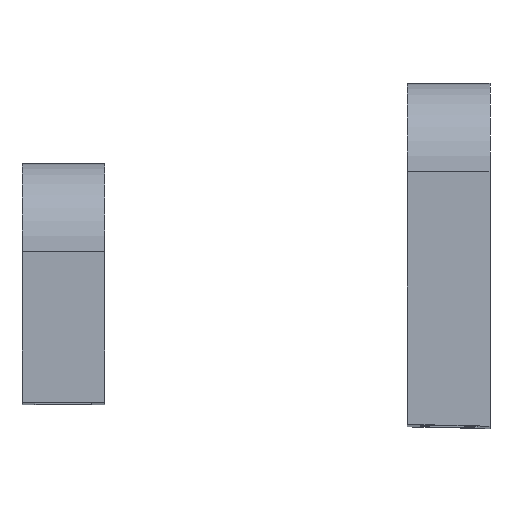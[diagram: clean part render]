
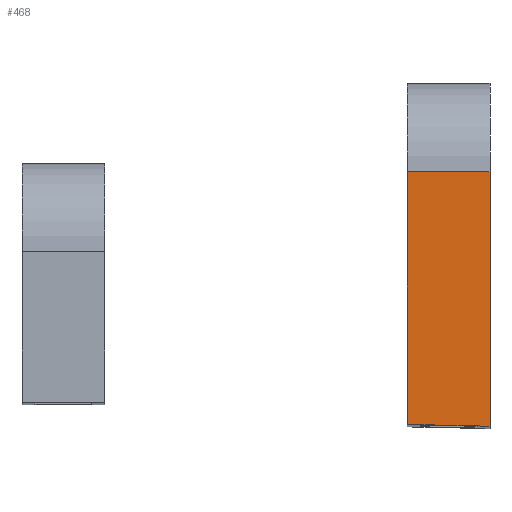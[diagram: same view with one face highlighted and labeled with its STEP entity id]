
A CAD part, front view. The second image highlights one B-rep face of the part: STEP entity #468.
In plain terms, the highlighted planar face has unit normal (0, -1, 0).
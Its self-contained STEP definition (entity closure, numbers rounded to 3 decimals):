
#25=PLANE('',#513);
#48=FACE_OUTER_BOUND('',#75,.T.);
#75=EDGE_LOOP('',(#333,#334,#335,#336,#337,#338));
#105=LINE('',#708,#157);
#106=LINE('',#710,#158);
#107=LINE('',#712,#159);
#108=LINE('',#714,#160);
#109=LINE('',#715,#161);
#157=VECTOR('',#568,10.);
#158=VECTOR('',#569,10.);
#159=VECTOR('',#570,10.);
#160=VECTOR('',#571,10.);
#161=VECTOR('',#572,10.);
#206=ELLIPSE('',#510,1627.375,1626.736);
#215=VERTEX_POINT('',#693);
#216=VERTEX_POINT('',#695);
#221=VERTEX_POINT('',#707);
#222=VERTEX_POINT('',#709);
#223=VERTEX_POINT('',#711);
#224=VERTEX_POINT('',#713);
#259=EDGE_CURVE('',#216,#215,#206,.T.);
#265=EDGE_CURVE('',#221,#215,#105,.T.);
#266=EDGE_CURVE('',#221,#222,#106,.T.);
#267=EDGE_CURVE('',#222,#223,#107,.T.);
#268=EDGE_CURVE('',#223,#224,#108,.T.);
#269=EDGE_CURVE('',#224,#216,#109,.T.);
#333=ORIENTED_EDGE('',*,*,#259,.T.);
#334=ORIENTED_EDGE('',*,*,#265,.F.);
#335=ORIENTED_EDGE('',*,*,#266,.T.);
#336=ORIENTED_EDGE('',*,*,#267,.T.);
#337=ORIENTED_EDGE('',*,*,#268,.T.);
#338=ORIENTED_EDGE('',*,*,#269,.T.);
#468=ADVANCED_FACE('',(#48),#25,.T.);
#510=AXIS2_PLACEMENT_3D('',#696,#557,#558);
#513=AXIS2_PLACEMENT_3D('',#706,#566,#567);
#557=DIRECTION('center_axis',(0.,1.,0.));
#558=DIRECTION('ref_axis',(-0.001,0.,
1.));
#566=DIRECTION('center_axis',(0.,-1.,0.));
#567=DIRECTION('ref_axis',(-1.,0.,0.));
#568=DIRECTION('',(0.,0.,-1.));
#569=DIRECTION('',(-1.,0.,0.));
#570=DIRECTION('',(-1.,0.,0.));
#571=DIRECTION('',(-1.,0.,0.));
#572=DIRECTION('',(0.,0.,-1.));
#693=CARTESIAN_POINT('',(13640.216,11459.856,-921.01));
#695=CARTESIAN_POINT('',(13632.596,11459.856,-920.843));
#696=CARTESIAN_POINT('Origin',(13600.801,11459.856,-2547.908));
#706=CARTESIAN_POINT('Origin',(13640.216,11459.856,-886.029));
#707=CARTESIAN_POINT('',(13640.216,11459.856,-897.498));
#708=CARTESIAN_POINT('',(13640.216,11459.856,-886.029));
#709=CARTESIAN_POINT('',(13639.016,11459.856,-897.498));
#710=CARTESIAN_POINT('',(13636.406,11459.856,-897.498));
#711=CARTESIAN_POINT('',(13633.796,11459.856,-897.498));
#712=CARTESIAN_POINT('',(13636.406,11459.856,-897.498));
#713=CARTESIAN_POINT('',(13632.596,11459.856,-897.498));
#714=CARTESIAN_POINT('',(13636.406,11459.856,-897.498));
#715=CARTESIAN_POINT('',(13632.596,11459.856,-886.029));
